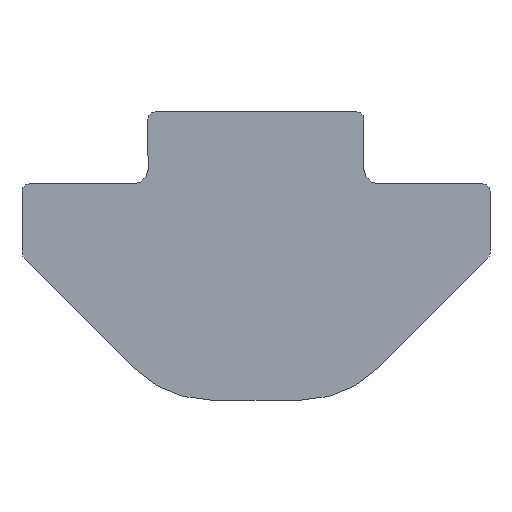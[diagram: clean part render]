
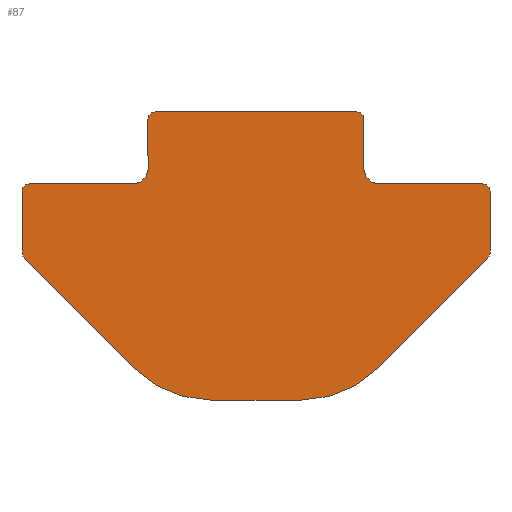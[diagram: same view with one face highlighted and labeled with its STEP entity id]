
A CAD part, front view. The second image highlights one B-rep face of the part: STEP entity #87.
In plain terms, the highlighted planar face has unit normal (0, -1, 0).
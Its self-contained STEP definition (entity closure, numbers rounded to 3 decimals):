
#87=ADVANCED_FACE('',(#169),#170,.T.);
#169=FACE_OUTER_BOUND('',#243,.T.);
#170=PLANE('',#244);
#243=EDGE_LOOP('',(#411,#412,#413,#414,#415,#416,#417,#418,#419,#420,#421,#422,#423,#424,#425,#426,#427,#428,#429,#430));
#244=AXIS2_PLACEMENT_3D('',#431,#432,#433);
#411=ORIENTED_EDGE('',*,*,#460,.F.);
#412=ORIENTED_EDGE('',*,*,#537,.F.);
#413=ORIENTED_EDGE('',*,*,#533,.F.);
#414=ORIENTED_EDGE('',*,*,#529,.F.);
#415=ORIENTED_EDGE('',*,*,#525,.F.);
#416=ORIENTED_EDGE('',*,*,#521,.F.);
#417=ORIENTED_EDGE('',*,*,#517,.F.);
#418=ORIENTED_EDGE('',*,*,#513,.F.);
#419=ORIENTED_EDGE('',*,*,#509,.F.);
#420=ORIENTED_EDGE('',*,*,#505,.F.);
#421=ORIENTED_EDGE('',*,*,#501,.F.);
#422=ORIENTED_EDGE('',*,*,#497,.F.);
#423=ORIENTED_EDGE('',*,*,#493,.F.);
#424=ORIENTED_EDGE('',*,*,#489,.F.);
#425=ORIENTED_EDGE('',*,*,#485,.F.);
#426=ORIENTED_EDGE('',*,*,#481,.F.);
#427=ORIENTED_EDGE('',*,*,#477,.F.);
#428=ORIENTED_EDGE('',*,*,#473,.F.);
#429=ORIENTED_EDGE('',*,*,#469,.F.);
#430=ORIENTED_EDGE('',*,*,#465,.F.);
#431=CARTESIAN_POINT('',(0.,-1000.0,-1.695));
#432=DIRECTION('',(0.0,-1.0,0.0));
#433=DIRECTION('',(1.0,0.0,0.0));
#460=EDGE_CURVE('',#543,#544,#545,.T.);
#465=EDGE_CURVE('',#544,#552,#553,.T.);
#469=EDGE_CURVE('',#552,#558,#559,.T.);
#473=EDGE_CURVE('',#558,#564,#565,.T.);
#477=EDGE_CURVE('',#564,#570,#571,.T.);
#481=EDGE_CURVE('',#570,#576,#577,.T.);
#485=EDGE_CURVE('',#576,#582,#583,.T.);
#489=EDGE_CURVE('',#582,#588,#589,.T.);
#493=EDGE_CURVE('',#588,#594,#595,.T.);
#497=EDGE_CURVE('',#594,#600,#601,.T.);
#501=EDGE_CURVE('',#600,#606,#607,.T.);
#505=EDGE_CURVE('',#606,#612,#613,.T.);
#509=EDGE_CURVE('',#612,#618,#619,.T.);
#513=EDGE_CURVE('',#618,#624,#625,.T.);
#517=EDGE_CURVE('',#624,#630,#631,.T.);
#521=EDGE_CURVE('',#630,#636,#637,.T.);
#525=EDGE_CURVE('',#636,#642,#643,.T.);
#529=EDGE_CURVE('',#642,#648,#649,.T.);
#533=EDGE_CURVE('',#648,#654,#655,.T.);
#537=EDGE_CURVE('',#654,#543,#660,.T.);
#543=VERTEX_POINT('',#666);
#544=VERTEX_POINT('',#667);
#545=LINE('',#668,#669);
#552=VERTEX_POINT('',#679);
#553=CIRCLE('',#680,0.2);
#558=VERTEX_POINT('',#686);
#559=LINE('',#687,#688);
#564=VERTEX_POINT('',#695);
#565=CIRCLE('',#696,0.2);
#570=VERTEX_POINT('',#702);
#571=LINE('',#703,#704);
#576=VERTEX_POINT('',#711);
#577=CIRCLE('',#712,0.4);
#582=VERTEX_POINT('',#718);
#583=LINE('',#719,#720);
#588=VERTEX_POINT('',#727);
#589=CIRCLE('',#728,0.2);
#594=VERTEX_POINT('',#734);
#595=LINE('',#735,#736);
#600=VERTEX_POINT('',#743);
#601=CIRCLE('',#744,0.2);
#606=VERTEX_POINT('',#750);
#607=LINE('',#751,#752);
#612=VERTEX_POINT('',#759);
#613=CIRCLE('',#760,3.0);
#618=VERTEX_POINT('',#766);
#619=LINE('',#767,#768);
#624=VERTEX_POINT('',#775);
#625=CIRCLE('',#776,3.);
#630=VERTEX_POINT('',#782);
#631=LINE('',#783,#784);
#636=VERTEX_POINT('',#791);
#637=CIRCLE('',#792,0.2);
#642=VERTEX_POINT('',#798);
#643=LINE('',#799,#800);
#648=VERTEX_POINT('',#807);
#649=CIRCLE('',#808,0.2);
#654=VERTEX_POINT('',#814);
#655=LINE('',#815,#816);
#660=CIRCLE('',#823,0.4);
#666=CARTESIAN_POINT('',(-3.0,-1000.0,0.4));
#667=CARTESIAN_POINT('',(-3.,-1000.0,1.8));
#668=CARTESIAN_POINT('',(-3.,-1000.0,0.4));
#669=VECTOR('',#828,1.0);
#679=CARTESIAN_POINT('',(-2.8,-1000.0,2.0));
#680=AXIS2_PLACEMENT_3D('',#832,#833,#834);
#686=CARTESIAN_POINT('',(2.8,-1000.0,2.0));
#687=CARTESIAN_POINT('',(-2.8,-1000.0,2.0));
#688=VECTOR('',#839,1.0);
#695=CARTESIAN_POINT('',(3.,-1000.0,1.8));
#696=AXIS2_PLACEMENT_3D('',#842,#843,#844);
#702=CARTESIAN_POINT('',(3.,-1000.0,0.4));
#703=CARTESIAN_POINT('',(3.,-1000.0,1.8));
#704=VECTOR('',#849,1.0);
#711=CARTESIAN_POINT('',(3.4,-1000.0,0.));
#712=AXIS2_PLACEMENT_3D('',#852,#853,#854);
#718=CARTESIAN_POINT('',(6.3,-1000.0,0.0));
#719=CARTESIAN_POINT('',(3.4,-1000.0,0.0));
#720=VECTOR('',#859,1.0);
#727=CARTESIAN_POINT('',(6.5,-1000.0,-0.2));
#728=AXIS2_PLACEMENT_3D('',#862,#863,#864);
#734=CARTESIAN_POINT('',(6.5,-1000.0,-1.917));
#735=CARTESIAN_POINT('',(6.5,-1000.0,-0.2));
#736=VECTOR('',#869,1.0);
#743=CARTESIAN_POINT('',(6.441,-1000.0,-2.059));
#744=AXIS2_PLACEMENT_3D('',#872,#873,#874);
#750=CARTESIAN_POINT('',(3.379,-1000.0,-5.121));
#751=CARTESIAN_POINT('',(6.441,-1000.0,-2.059));
#752=VECTOR('',#879,1.);
#759=CARTESIAN_POINT('',(1.257,-1000.0,-6.));
#760=AXIS2_PLACEMENT_3D('',#882,#883,#884);
#766=CARTESIAN_POINT('',(-1.257,-1000.0,-6.));
#767=CARTESIAN_POINT('',(1.257,-1000.0,-6.));
#768=VECTOR('',#889,1.0);
#775=CARTESIAN_POINT('',(-3.379,-1000.0,-5.121));
#776=AXIS2_PLACEMENT_3D('',#892,#893,#894);
#782=CARTESIAN_POINT('',(-6.441,-1000.0,-2.059));
#783=CARTESIAN_POINT('',(-3.379,-1000.0,-5.121));
#784=VECTOR('',#899,1.);
#791=CARTESIAN_POINT('',(-6.5,-1000.0,-1.917));
#792=AXIS2_PLACEMENT_3D('',#902,#903,#904);
#798=CARTESIAN_POINT('',(-6.5,-1000.0,-0.2));
#799=CARTESIAN_POINT('',(-6.5,-1000.0,-1.917));
#800=VECTOR('',#909,1.0);
#807=CARTESIAN_POINT('',(-6.3,-1000.0,0.0));
#808=AXIS2_PLACEMENT_3D('',#912,#913,#914);
#814=CARTESIAN_POINT('',(-3.4,-1000.0,0.0));
#815=CARTESIAN_POINT('',(-6.3,-1000.0,0.0));
#816=VECTOR('',#919,1.0);
#823=AXIS2_PLACEMENT_3D('',#922,#923,#924);
#828=DIRECTION('',(0.0,0.0,1.0));
#832=CARTESIAN_POINT('',(-2.8,-1000.0,1.8));
#833=DIRECTION('',(-0.0,1.0,0.0));
#834=DIRECTION('',(0.,0.0,1.0));
#839=DIRECTION('',(1.0,0.0,0.0));
#842=CARTESIAN_POINT('',(2.8,-1000.0,1.8));
#843=DIRECTION('',(-0.0,1.0,0.0));
#844=DIRECTION('',(1.0,0.0,0.));
#849=DIRECTION('',(0.0,0.0,-1.0));
#852=CARTESIAN_POINT('',(3.4,-1000.0,0.4));
#853=DIRECTION('',(0.0,-1.0,0.0));
#854=DIRECTION('',(-1.0,0.0,0.));
#859=DIRECTION('',(1.0,0.0,0.0));
#862=CARTESIAN_POINT('',(6.3,-1000.0,-0.2));
#863=DIRECTION('',(-0.0,1.0,0.0));
#864=DIRECTION('',(1.0,0.0,0.));
#869=DIRECTION('',(0.0,0.0,-1.0));
#872=CARTESIAN_POINT('',(6.3,-1000.0,-1.917));
#873=DIRECTION('',(-0.0,1.0,0.0));
#874=DIRECTION('',(0.707,0.0,-0.707));
#879=DIRECTION('',(-0.707,-0.0,-0.707));
#882=CARTESIAN_POINT('',(1.257,-1000.0,-3.));
#883=DIRECTION('',(-0.0,1.0,0.0));
#884=DIRECTION('',(0.,0.0,-1.0));
#889=DIRECTION('',(-1.0,0.0,0.0));
#892=CARTESIAN_POINT('',(-1.257,-1000.0,-3.));
#893=DIRECTION('',(0.0,1.0,-0.0));
#894=DIRECTION('',(-0.707,-0.0,-0.707));
#899=DIRECTION('',(-0.707,0.0,0.707));
#902=CARTESIAN_POINT('',(-6.3,-1000.0,-1.917));
#903=DIRECTION('',(0.0,1.0,-0.0));
#904=DIRECTION('',(-1.0,-0.0,0.));
#909=DIRECTION('',(0.0,0.0,1.0));
#912=CARTESIAN_POINT('',(-6.3,-1000.0,-0.2));
#913=DIRECTION('',(-0.0,1.0,0.0));
#914=DIRECTION('',(0.0,0.0,1.0));
#919=DIRECTION('',(1.0,0.0,0.0));
#922=CARTESIAN_POINT('',(-3.4,-1000.0,0.4));
#923=DIRECTION('',(0.0,-1.0,0.0));
#924=DIRECTION('',(0.0,0.0,-1.0));
